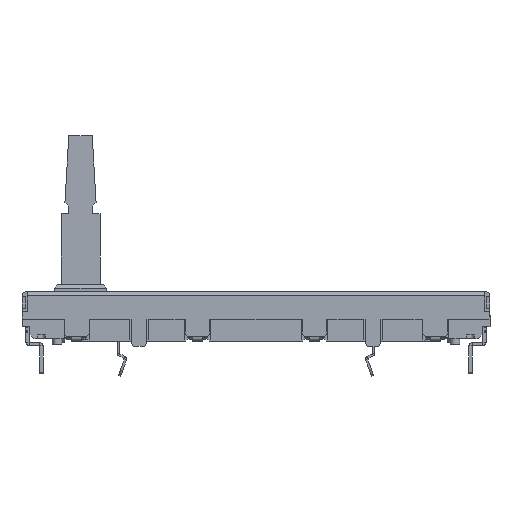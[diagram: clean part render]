
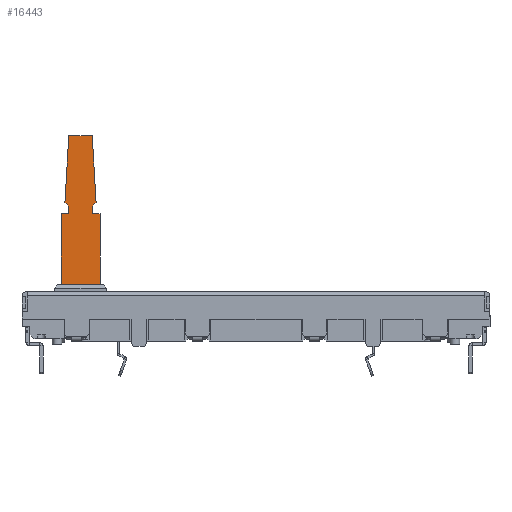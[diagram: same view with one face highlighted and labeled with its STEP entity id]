
A CAD part, front view. The second image highlights one B-rep face of the part: STEP entity #16443.
In plain terms, the highlighted planar face has unit normal (0, -1, 0) as drawn and (0, 0, 1) by its records, which use the part's own axes.
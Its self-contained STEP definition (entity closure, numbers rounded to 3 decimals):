
#9 = EDGE_LOOP ( 'NONE', ( #33121, #33122, #33123, #33124, #33125, #33127, #33129, #33131, #33133, #33135, #33136, #33137, #33138, #33139, #33140, #33141 ) ) ;
#7852 = FACE_OUTER_BOUND ( 'NONE', #9, .T. ) ;
#8368 = CARTESIAN_POINT ( 'NONE',  ( -27.981, 15.975, 2.068 ) ) ;
#8376 = PLANE ( 'NONE',  #8560 ) ;
#8388 = DIRECTION ( 'NONE',  ( 0., 0., -1. ) ) ;
#8389 = DIRECTION ( 'NONE',  ( 0., -1., 0. ) ) ;
#8560 = AXIS2_PLACEMENT_3D ( 'NONE', #8368, #8388, #8389 ) ;
#16443 = ADVANCED_FACE ( 'NONE', ( #7852 ), #8376, .F. ) ;
#28374 = EDGE_CURVE ( 'NONE', #30964, #30967, #35377, .T. ) ;
#28375 = EDGE_CURVE ( 'NONE', #30968, #30964, #35366, .T. ) ;
#28390 = EDGE_CURVE ( 'NONE', #30990, #30991, #35404, .T. ) ;
#28391 = EDGE_CURVE ( 'NONE', #30991, #30992, #35411, .T. ) ;
#28392 = EDGE_CURVE ( 'NONE', #30967, #30988, #35413, .T. ) ;
#28394 = EDGE_CURVE ( 'NONE', #30989, #30990, #35417, .T. ) ;
#28395 = EDGE_CURVE ( 'NONE', #30988, #30989, #35419, .T. ) ;
#28396 = EDGE_CURVE ( 'NONE', #30992, #30994, #35421, .T. ) ;
#28397 = EDGE_CURVE ( 'NONE', #30994, #30996, #35423, .T. ) ;
#28398 = EDGE_CURVE ( 'NONE', #30996, #30998, #35425, .T. ) ;
#28399 = EDGE_CURVE ( 'NONE', #30998, #30999, #35427, .T. ) ;
#28400 = EDGE_CURVE ( 'NONE', #30999, #31001, #35429, .T. ) ;
#28401 = EDGE_CURVE ( 'NONE', #31001, #31003, #35431, .T. ) ;
#28402 = EDGE_CURVE ( 'NONE', #31003, #31004, #35433, .T. ) ;
#28403 = EDGE_CURVE ( 'NONE', #31004, #31005, #35435, .T. ) ;
#28404 = EDGE_CURVE ( 'NONE', #31005, #30968, #35437, .T. ) ;
#30964 = VERTEX_POINT ( 'NONE', #36477 ) ;
#30967 = VERTEX_POINT ( 'NONE', #36480 ) ;
#30968 = VERTEX_POINT ( 'NONE', #36481 ) ;
#30988 = VERTEX_POINT ( 'NONE', #36496 ) ;
#30989 = VERTEX_POINT ( 'NONE', #36497 ) ;
#30990 = VERTEX_POINT ( 'NONE', #36498 ) ;
#30991 = VERTEX_POINT ( 'NONE', #36499 ) ;
#30992 = VERTEX_POINT ( 'NONE', #36500 ) ;
#30994 = VERTEX_POINT ( 'NONE', #36501 ) ;
#30996 = VERTEX_POINT ( 'NONE', #36502 ) ;
#30998 = VERTEX_POINT ( 'NONE', #36503 ) ;
#30999 = VERTEX_POINT ( 'NONE', #36504 ) ;
#31001 = VERTEX_POINT ( 'NONE', #36505 ) ;
#31003 = VERTEX_POINT ( 'NONE', #36506 ) ;
#31004 = VERTEX_POINT ( 'NONE', #36507 ) ;
#31005 = VERTEX_POINT ( 'NONE', #36508 ) ;
#33121 = ORIENTED_EDGE ( 'NONE', *, *, #28375, .T. ) ;
#33122 = ORIENTED_EDGE ( 'NONE', *, *, #28374, .T. ) ;
#33123 = ORIENTED_EDGE ( 'NONE', *, *, #28392, .T. ) ;
#33124 = ORIENTED_EDGE ( 'NONE', *, *, #28395, .T. ) ;
#33125 = ORIENTED_EDGE ( 'NONE', *, *, #28394, .T. ) ;
#33127 = ORIENTED_EDGE ( 'NONE', *, *, #28390, .T. ) ;
#33129 = ORIENTED_EDGE ( 'NONE', *, *, #28391, .T. ) ;
#33131 = ORIENTED_EDGE ( 'NONE', *, *, #28396, .T. ) ;
#33133 = ORIENTED_EDGE ( 'NONE', *, *, #28397, .T. ) ;
#33135 = ORIENTED_EDGE ( 'NONE', *, *, #28398, .T. ) ;
#33136 = ORIENTED_EDGE ( 'NONE', *, *, #28399, .T. ) ;
#33137 = ORIENTED_EDGE ( 'NONE', *, *, #28400, .T. ) ;
#33138 = ORIENTED_EDGE ( 'NONE', *, *, #28401, .T. ) ;
#33139 = ORIENTED_EDGE ( 'NONE', *, *, #28402, .T. ) ;
#33140 = ORIENTED_EDGE ( 'NONE', *, *, #28403, .T. ) ;
#33141 = ORIENTED_EDGE ( 'NONE', *, *, #28404, .T. ) ;
#34686 = CARTESIAN_POINT ( 'NONE',  ( -28.793, 6.975, 2.068 ) ) ;
#34688 = CARTESIAN_POINT ( 'NONE',  ( -27.981, 6.925, 2.068 ) ) ;
#34689 = DIRECTION ( 'NONE',  ( 1., 0., 0. ) ) ;
#34691 = DIRECTION ( 'NONE',  ( 0., -1., 0. ) ) ;
#34718 = CARTESIAN_POINT ( 'NONE',  ( -24.393, 15.975, 2.068 ) ) ;
#34721 = DIRECTION ( 'NONE',  ( -1., 0., 0. ) ) ;
#34722 = CARTESIAN_POINT ( 'NONE',  ( -24.393, 16.975, 2.068 ) ) ;
#34723 = DIRECTION ( 'NONE',  ( 0., 1., 0. ) ) ;
#34724 = CARTESIAN_POINT ( 'NONE',  ( -22.993, 6.975, 2.068 ) ) ;
#34725 = DIRECTION ( 'NONE',  ( 0., 1., 0. ) ) ;
#34728 = CARTESIAN_POINT ( 'NONE',  ( -23.393, 15.975, 2.068 ) ) ;
#34729 = DIRECTION ( 'NONE',  ( 0., 1., 0. ) ) ;
#34730 = CARTESIAN_POINT ( 'NONE',  ( -23.393, 6.975, 2.068 ) ) ;
#34731 = DIRECTION ( 'NONE',  ( -1., 0., 0. ) ) ;
#34732 = CARTESIAN_POINT ( 'NONE',  ( -23.893, 17.475, 2.068 ) ) ;
#34733 = DIRECTION ( 'NONE',  ( 0.707, 0.707, 0. ) ) ;
#34734 = CARTESIAN_POINT ( 'NONE',  ( -24.393, 25.975, 2.068 ) ) ;
#34735 = DIRECTION ( 'NONE',  ( -0.059, 0.998, 0. ) ) ;
#34736 = CARTESIAN_POINT ( 'NONE',  ( -24.393, 25.975, 2.068 ) ) ;
#34737 = DIRECTION ( 'NONE',  ( -1., 0., 0. ) ) ;
#34738 = CARTESIAN_POINT ( 'NONE',  ( -27.393, 25.975, 2.068 ) ) ;
#34739 = DIRECTION ( 'NONE',  ( -0.059, -0.998, 0. ) ) ;
#34740 = CARTESIAN_POINT ( 'NONE',  ( -27.893, 17.475, 2.068 ) ) ;
#34741 = DIRECTION ( 'NONE',  ( 0.707, -0.707, 0. ) ) ;
#34742 = CARTESIAN_POINT ( 'NONE',  ( -27.393, 16.975, 2.068 ) ) ;
#34743 = DIRECTION ( 'NONE',  ( 0., -1., 0. ) ) ;
#34744 = CARTESIAN_POINT ( 'NONE',  ( -27.393, 15.975, 2.068 ) ) ;
#34745 = DIRECTION ( 'NONE',  ( -1., 0., 0. ) ) ;
#34746 = CARTESIAN_POINT ( 'NONE',  ( -28.393, 15.975, 2.068 ) ) ;
#34747 = DIRECTION ( 'NONE',  ( 0., -1., 0. ) ) ;
#34748 = CARTESIAN_POINT ( 'NONE',  ( -28.393, 6.975, 2.068 ) ) ;
#34749 = DIRECTION ( 'NONE',  ( -1., 0., 0. ) ) ;
#35366 = LINE ( 'NONE', #34686, #35379 ) ;
#35377 = LINE ( 'NONE', #34688, #35378 ) ;
#35378 = VECTOR ( 'NONE', #34689, 1000. ) ;
#35379 = VECTOR ( 'NONE', #34691, 1000. ) ;
#35404 = LINE ( 'NONE', #34718, #35409 ) ;
#35409 = VECTOR ( 'NONE', #34721, 1000. ) ;
#35411 = LINE ( 'NONE', #34722, #35412 ) ;
#35412 = VECTOR ( 'NONE', #34723, 1000. ) ;
#35413 = LINE ( 'NONE', #34724, #35414 ) ;
#35414 = VECTOR ( 'NONE', #34725, 1000. ) ;
#35417 = LINE ( 'NONE', #34728, #35418 ) ;
#35418 = VECTOR ( 'NONE', #34729, 1000. ) ;
#35419 = LINE ( 'NONE', #34730, #35420 ) ;
#35420 = VECTOR ( 'NONE', #34731, 1000. ) ;
#35421 = LINE ( 'NONE', #34732, #35422 ) ;
#35422 = VECTOR ( 'NONE', #34733, 1000. ) ;
#35423 = LINE ( 'NONE', #34734, #35424 ) ;
#35424 = VECTOR ( 'NONE', #34735, 1000. ) ;
#35425 = LINE ( 'NONE', #34736, #35426 ) ;
#35426 = VECTOR ( 'NONE', #34737, 1000. ) ;
#35427 = LINE ( 'NONE', #34738, #35428 ) ;
#35428 = VECTOR ( 'NONE', #34739, 1000. ) ;
#35429 = LINE ( 'NONE', #34740, #35430 ) ;
#35430 = VECTOR ( 'NONE', #34741, 1000. ) ;
#35431 = LINE ( 'NONE', #34742, #35432 ) ;
#35432 = VECTOR ( 'NONE', #34743, 1000. ) ;
#35433 = LINE ( 'NONE', #34744, #35434 ) ;
#35434 = VECTOR ( 'NONE', #34745, 1000. ) ;
#35435 = LINE ( 'NONE', #34746, #35436 ) ;
#35436 = VECTOR ( 'NONE', #34747, 1000. ) ;
#35437 = LINE ( 'NONE', #34748, #35438 ) ;
#35438 = VECTOR ( 'NONE', #34749, 1000. ) ;
#36477 = CARTESIAN_POINT ( 'NONE',  ( -28.793, 6.925, 2.068 ) ) ;
#36480 = CARTESIAN_POINT ( 'NONE',  ( -22.993, 6.925, 2.068 ) ) ;
#36481 = CARTESIAN_POINT ( 'NONE',  ( -28.793, 6.975, 2.068 ) ) ;
#36496 = CARTESIAN_POINT ( 'NONE',  ( -22.993, 6.975, 2.068 ) ) ;
#36497 = CARTESIAN_POINT ( 'NONE',  ( -23.393, 6.975, 2.068 ) ) ;
#36498 = CARTESIAN_POINT ( 'NONE',  ( -23.393, 15.975, 2.068 ) ) ;
#36499 = CARTESIAN_POINT ( 'NONE',  ( -24.393, 15.975, 2.068 ) ) ;
#36500 = CARTESIAN_POINT ( 'NONE',  ( -24.393, 16.975, 2.068 ) ) ;
#36501 = CARTESIAN_POINT ( 'NONE',  ( -23.893, 17.475, 2.068 ) ) ;
#36502 = CARTESIAN_POINT ( 'NONE',  ( -24.393, 25.975, 2.068 ) ) ;
#36503 = CARTESIAN_POINT ( 'NONE',  ( -27.393, 25.975, 2.068 ) ) ;
#36504 = CARTESIAN_POINT ( 'NONE',  ( -27.893, 17.475, 2.068 ) ) ;
#36505 = CARTESIAN_POINT ( 'NONE',  ( -27.393, 16.975, 2.068 ) ) ;
#36506 = CARTESIAN_POINT ( 'NONE',  ( -27.393, 15.975, 2.068 ) ) ;
#36507 = CARTESIAN_POINT ( 'NONE',  ( -28.393, 15.975, 2.068 ) ) ;
#36508 = CARTESIAN_POINT ( 'NONE',  ( -28.393, 6.975, 2.068 ) ) ;
